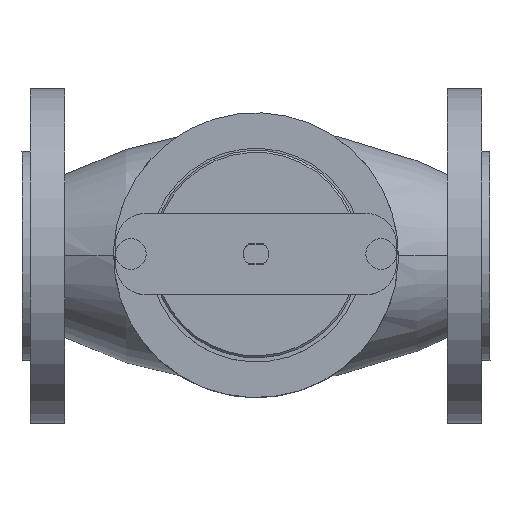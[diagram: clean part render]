
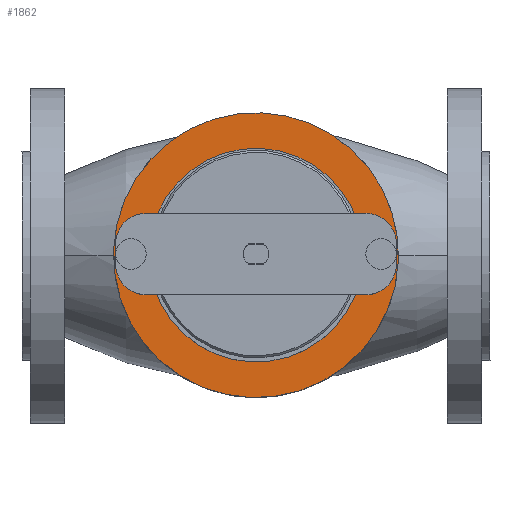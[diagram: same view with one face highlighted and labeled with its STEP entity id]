
A CAD part, top view. The second image highlights one B-rep face of the part: STEP entity #1862.
In plain terms, the highlighted planar face has unit normal (0, 0, 1).
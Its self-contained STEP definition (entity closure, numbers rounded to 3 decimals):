
#164 = FACE_BOUND ( 'NONE', #3618, .T. ) ;
#289 = VERTEX_POINT ( 'NONE', #6375 ) ;
#384 = FACE_BOUND ( 'NONE', #10717, .T. ) ;
#876 = DIRECTION ( 'NONE',  ( 0., 0., -1. ) ) ;
#1225 = PLANE ( 'NONE',  #5479 ) ;
#1261 = ORIENTED_EDGE ( 'NONE', *, *, #8000, .F. ) ;
#1337 = EDGE_CURVE ( 'NONE', #8499, #9139, #11077, .T. ) ;
#1435 = VERTEX_POINT ( 'NONE', #4101 ) ;
#1715 = DIRECTION ( 'NONE',  ( 0., 1., 0. ) ) ;
#1776 = EDGE_CURVE ( 'NONE', #289, #3756, #2442, .T. ) ;
#1862 = ADVANCED_FACE ( 'NONE', ( #6329, #6277, #164, #384 ), #1225, .F. ) ;
#1970 = DIRECTION ( 'NONE',  ( -1., 0., 0. ) ) ;
#2257 = EDGE_LOOP ( 'NONE', ( #1261, #5230 ) ) ;
#2294 = DIRECTION ( 'NONE',  ( 0., 1., 0. ) ) ;
#2388 = VERTEX_POINT ( 'NONE', #9439 ) ;
#2442 = CIRCLE ( 'NONE', #8729, 7.5 ) ;
#2645 = AXIS2_PLACEMENT_3D ( 'NONE', #9207, #9157, #2294 ) ;
#2947 = CARTESIAN_POINT ( 'NONE',  ( -43.172, 4.093, 146.08 ) ) ;
#3002 = ORIENTED_EDGE ( 'NONE', *, *, #10655, .T. ) ;
#3278 = CARTESIAN_POINT ( 'NONE',  ( 38.419, 60.096, 146.08 ) ) ;
#3330 = ORIENTED_EDGE ( 'NONE', *, *, #5426, .F. ) ;
#3618 = EDGE_LOOP ( 'NONE', ( #6098, #6778 ) ) ;
#3732 = AXIS2_PLACEMENT_3D ( 'NONE', #7722, #7669, #8413 ) ;
#3756 = VERTEX_POINT ( 'NONE', #7392 ) ;
#3785 = CARTESIAN_POINT ( 'NONE',  ( 18.328, 11.593, 146.08 ) ) ;
#3825 = DIRECTION ( 'NONE',  ( 0., 0., -1. ) ) ;
#3838 = ORIENTED_EDGE ( 'NONE', *, *, #6771, .F. ) ;
#3947 = DIRECTION ( 'NONE',  ( 0., 0., 1. ) ) ;
#4101 = CARTESIAN_POINT ( 'NONE',  ( -43.172, 19.093, 146.08 ) ) ;
#4132 = DIRECTION ( 'NONE',  ( -1., 0., 0. ) ) ;
#4300 = DIRECTION ( 'NONE',  ( -1., 0., 0. ) ) ;
#4433 = CIRCLE ( 'NONE', #3732, 7.5 ) ;
#5230 = ORIENTED_EDGE ( 'NONE', *, *, #5395, .F. ) ;
#5395 = EDGE_CURVE ( 'NONE', #9914, #1435, #9283, .T. ) ;
#5426 = EDGE_CURVE ( 'NONE', #2388, #6213, #6575, .T. ) ;
#5428 = CARTESIAN_POINT ( 'NONE',  ( 18.328, 11.593, 146.08 ) ) ;
#5457 = AXIS2_PLACEMENT_3D ( 'NONE', #8468, #876, #4300 ) ;
#5479 = AXIS2_PLACEMENT_3D ( 'NONE', #5428, #3825, #1970 ) ;
#5562 = DIRECTION ( 'NONE',  ( 0., 0., 1. ) ) ;
#5948 = DIRECTION ( 'NONE',  ( 0., 1., 0. ) ) ;
#6098 = ORIENTED_EDGE ( 'NONE', *, *, #7548, .F. ) ;
#6173 = CIRCLE ( 'NONE', #5457, 70. ) ;
#6212 = CIRCLE ( 'NONE', #8222, 52.5 ) ;
#6213 = VERTEX_POINT ( 'NONE', #8156 ) ;
#6277 = FACE_OUTER_BOUND ( 'NONE', #10865, .T. ) ;
#6329 = FACE_BOUND ( 'NONE', #2257, .T. ) ;
#6375 = CARTESIAN_POINT ( 'NONE',  ( 79.828, 19.093, 146.08 ) ) ;
#6575 = CIRCLE ( 'NONE', #7464, 70. ) ;
#6677 = CARTESIAN_POINT ( 'NONE',  ( 18.328, 11.593, 146.08 ) ) ;
#6704 = DIRECTION ( 'NONE',  ( 0., 0., -1. ) ) ;
#6741 = CIRCLE ( 'NONE', #8911, 7.5 ) ;
#6771 = EDGE_CURVE ( 'NONE', #6213, #2388, #6173, .T. ) ;
#6778 = ORIENTED_EDGE ( 'NONE', *, *, #1337, .F. ) ;
#6792 = CARTESIAN_POINT ( 'NONE',  ( 79.828, 11.593, 146.08 ) ) ;
#6907 = AXIS2_PLACEMENT_3D ( 'NONE', #3785, #5562, #9011 ) ;
#7242 = ORIENTED_EDGE ( 'NONE', *, *, #1776, .T. ) ;
#7392 = CARTESIAN_POINT ( 'NONE',  ( 79.828, 4.093, 146.08 ) ) ;
#7464 = AXIS2_PLACEMENT_3D ( 'NONE', #10111, #8289, #4132 ) ;
#7548 = EDGE_CURVE ( 'NONE', #9139, #8499, #6212, .T. ) ;
#7669 = DIRECTION ( 'NONE',  ( 0., 0., 1. ) ) ;
#7722 = CARTESIAN_POINT ( 'NONE',  ( -43.172, 11.593, 146.08 ) ) ;
#8000 = EDGE_CURVE ( 'NONE', #1435, #9914, #4433, .T. ) ;
#8156 = CARTESIAN_POINT ( 'NONE',  ( -8.46, -53.079, 146.08 ) ) ;
#8222 = AXIS2_PLACEMENT_3D ( 'NONE', #6677, #3947, #9962 ) ;
#8289 = DIRECTION ( 'NONE',  ( 0., 0., -1. ) ) ;
#8413 = DIRECTION ( 'NONE',  ( 0., 1., 0. ) ) ;
#8468 = CARTESIAN_POINT ( 'NONE',  ( 18.328, 11.593, 146.08 ) ) ;
#8499 = VERTEX_POINT ( 'NONE', #9545 ) ;
#8633 = CARTESIAN_POINT ( 'NONE',  ( 79.828, 11.593, 146.08 ) ) ;
#8729 = AXIS2_PLACEMENT_3D ( 'NONE', #6792, #10254, #5948 ) ;
#8911 = AXIS2_PLACEMENT_3D ( 'NONE', #8633, #6704, #1715 ) ;
#9011 = DIRECTION ( 'NONE',  ( 0., 1., 0. ) ) ;
#9139 = VERTEX_POINT ( 'NONE', #3278 ) ;
#9157 = DIRECTION ( 'NONE',  ( 0., 0., 1. ) ) ;
#9207 = CARTESIAN_POINT ( 'NONE',  ( -43.172, 11.593, 146.08 ) ) ;
#9283 = CIRCLE ( 'NONE', #2645, 7.5 ) ;
#9439 = CARTESIAN_POINT ( 'NONE',  ( 45.116, 76.264, 146.08 ) ) ;
#9545 = CARTESIAN_POINT ( 'NONE',  ( -1.763, -36.911, 146.08 ) ) ;
#9914 = VERTEX_POINT ( 'NONE', #2947 ) ;
#9962 = DIRECTION ( 'NONE',  ( 0., 1., 0. ) ) ;
#10111 = CARTESIAN_POINT ( 'NONE',  ( 18.328, 11.593, 146.08 ) ) ;
#10254 = DIRECTION ( 'NONE',  ( 0., 0., -1. ) ) ;
#10655 = EDGE_CURVE ( 'NONE', #3756, #289, #6741, .T. ) ;
#10717 = EDGE_LOOP ( 'NONE', ( #7242, #3002 ) ) ;
#10865 = EDGE_LOOP ( 'NONE', ( #3838, #3330 ) ) ;
#11077 = CIRCLE ( 'NONE', #6907, 52.5 ) ;
